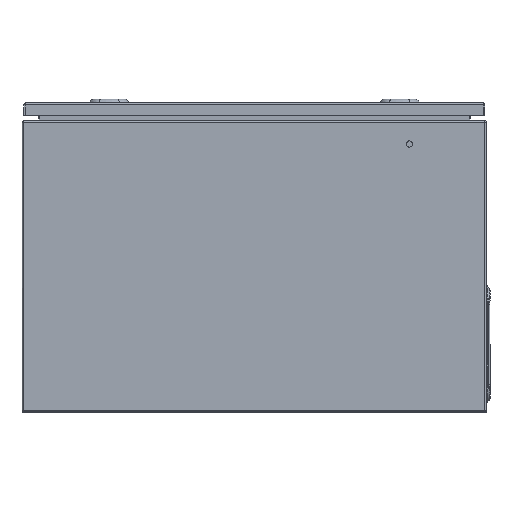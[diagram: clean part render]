
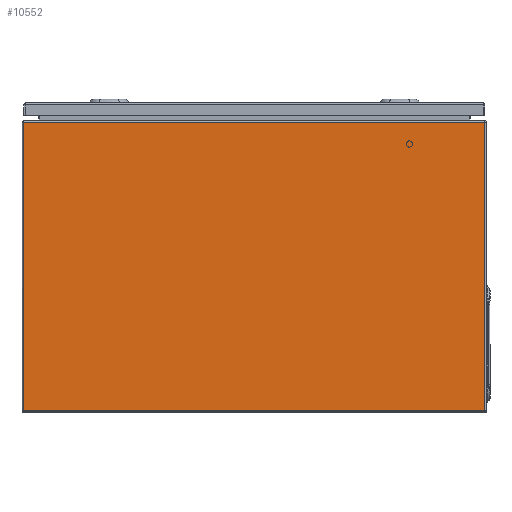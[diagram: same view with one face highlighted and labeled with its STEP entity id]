
A CAD part, left-side view. The second image highlights one B-rep face of the part: STEP entity #10552.
In plain terms, the highlighted planar face has unit normal (-1, 0, 0).
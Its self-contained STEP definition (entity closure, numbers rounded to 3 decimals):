
#457 = CARTESIAN_POINT ( 'NONE',  ( -200., 297.5, 2.35 ) ) ;
#1148 = LINE ( 'NONE', #16381, #16457 ) ;
#1280 = VECTOR ( 'NONE', #3293, 1000. ) ;
#1347 = CARTESIAN_POINT ( 'NONE',  ( -200., 297.5, 374.5 ) ) ;
#3267 = VECTOR ( 'NONE', #11948, 1000. ) ;
#3293 = DIRECTION ( 'NONE',  ( 0., -1., 0. ) ) ;
#3539 = EDGE_CURVE ( 'NONE', #21831, #20490, #10555, .T. ) ;
#4447 = LINE ( 'NONE', #8382, #3267 ) ;
#4798 = EDGE_CURVE ( 'NONE', #10370, #15494, #4447, .T. ) ;
#7326 = ORIENTED_EDGE ( 'NONE', *, *, #7587, .T. ) ;
#7587 = EDGE_CURVE ( 'NONE', #21831, #10370, #1148, .T. ) ;
#8196 = VECTOR ( 'NONE', #16589, 1000. ) ;
#8382 = CARTESIAN_POINT ( 'NONE',  ( -200., -300., 2.35 ) ) ;
#8396 = DIRECTION ( 'NONE',  ( 0., 0., -1. ) ) ;
#10159 = DIRECTION ( 'NONE',  ( 0., 0., -1. ) ) ;
#10277 = EDGE_CURVE ( 'NONE', #15494, #20490, #18188, .T. ) ;
#10370 = VERTEX_POINT ( 'NONE', #457 ) ;
#10552 = ADVANCED_FACE ( 'NONE', ( #11885 ), #16072, .F. ) ;
#10555 = LINE ( 'NONE', #22117, #1280 ) ;
#11885 = FACE_OUTER_BOUND ( 'NONE', #18775, .T. ) ;
#11948 = DIRECTION ( 'NONE',  ( 0., -1., 0. ) ) ;
#12124 = CARTESIAN_POINT ( 'NONE',  ( -200., -300., 1.5 ) ) ;
#12384 = CARTESIAN_POINT ( 'NONE',  ( -200., -297.5, 374.5 ) ) ;
#13706 = AXIS2_PLACEMENT_3D ( 'NONE', #12124, #19280, #10159 ) ;
#14497 = ORIENTED_EDGE ( 'NONE', *, *, #4798, .T. ) ;
#15494 = VERTEX_POINT ( 'NONE', #19694 ) ;
#16072 = PLANE ( 'NONE',  #13706 ) ;
#16381 = CARTESIAN_POINT ( 'NONE',  ( -200., 297.5, 1.5 ) ) ;
#16457 = VECTOR ( 'NONE', #8396, 1000. ) ;
#16589 = DIRECTION ( 'NONE',  ( 0., 0., 1. ) ) ;
#18188 = LINE ( 'NONE', #23708, #8196 ) ;
#18775 = EDGE_LOOP ( 'NONE', ( #7326, #14497, #23164, #20322 ) ) ;
#19280 = DIRECTION ( 'NONE',  ( 1., 0., 0. ) ) ;
#19694 = CARTESIAN_POINT ( 'NONE',  ( -200., -297.5, 2.35 ) ) ;
#20322 = ORIENTED_EDGE ( 'NONE', *, *, #3539, .F. ) ;
#20490 = VERTEX_POINT ( 'NONE', #12384 ) ;
#21831 = VERTEX_POINT ( 'NONE', #1347 ) ;
#22117 = CARTESIAN_POINT ( 'NONE',  ( -200., 300., 374.5 ) ) ;
#23164 = ORIENTED_EDGE ( 'NONE', *, *, #10277, .T. ) ;
#23708 = CARTESIAN_POINT ( 'NONE',  ( -200., -297.5, 1.5 ) ) ;
